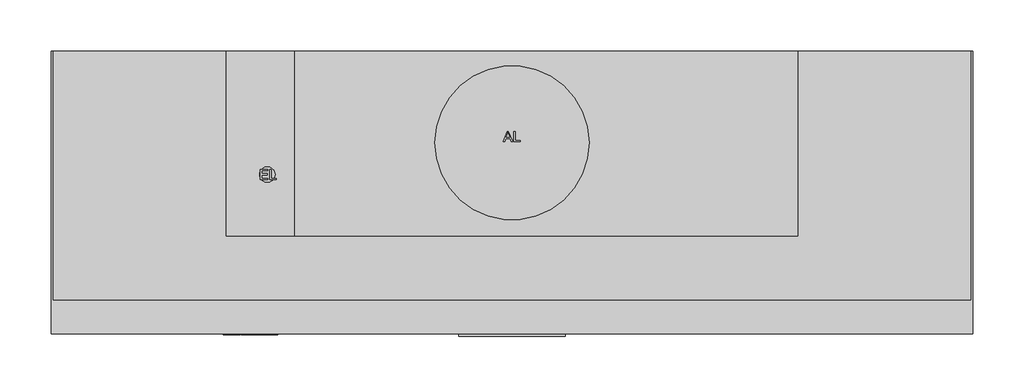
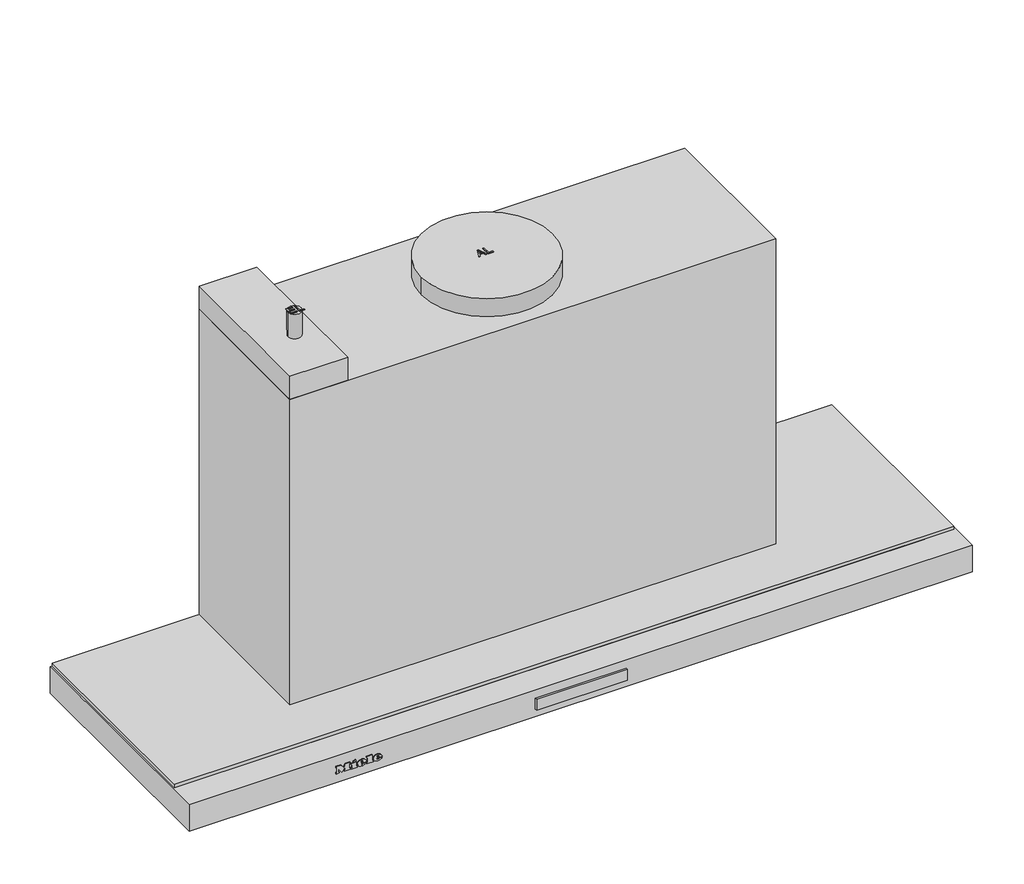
# Not in any storey: 1 proxy.
"""IFC4 building model written with IfcOpenShell, lengths in millimetres."""

import ifcopenshell
import ifcopenshell.guid

model = None  # the IFC model being written
_history = None  # IfcOwnerHistory: only IFC2X3 demands one
_inside = {}  # id of a spatial element -> (the spatial element, [elements in it])
_under = {}  # id of a project, library or spatial element -> (it, [spatial elements below it])
_declared = {}  # id of a project -> (the project, [libraries it declares])
_typed = {}  # id of a type object -> (the type object, [elements of that type])
_made_of = {}  # id of a material, layer set ... -> (it, [elements and type objects made of it])


def new_model(schema):
    """Start an empty IFC model of exactly this schema.

    Asked for "IFC4X3", IfcOpenShell would pick the latest addendum, in which some entities
    have other attributes; the version numbers below select the first issue.
    IFC2X3 requires an IfcOwnerHistory on every rooted entity: one is made here for all.
    """
    global model, _history
    if schema == "IFC4X3":
        model = ifcopenshell.file(schema_version=(4, 3, 0, 0))
    else:
        model = ifcopenshell.file(schema=schema)
    _inside.clear()
    _under.clear()
    _declared.clear()
    _typed.clear()
    _made_of.clear()
    _history = None
    if model.schema == "IFC2X3":
        org = make("IfcOrganization", Name="unknown")
        user = make(
            "IfcPersonAndOrganization",
            ThePerson=make("IfcPerson", FamilyName="unknown"),
            TheOrganization=org,
        )
        app = make(
            "IfcApplication",
            ApplicationDeveloper=org,
            Version="unknown",
            ApplicationFullName="unknown",
            ApplicationIdentifier="unknown",
        )
        _history = make(
            "IfcOwnerHistory",
            OwningUser=user,
            OwningApplication=app,
            ChangeAction="ADDED",
            CreationDate=0,
        )
    return model


def make(cls, **values):
    """One entity of the class cls with the attributes given. An attribute that is None is left unset."""
    return model.create_entity(
        cls, **{name: value for name, value in values.items() if value is not None}
    )


def rooted(cls, **values):
    """An entity with a GlobalId (a new one), such as an element, a storey or a relation."""
    return make(cls, GlobalId=ifcopenshell.guid.new(), OwnerHistory=_history, **values)


def si_unit(unit_type, name, prefix=None):
    """IfcSIUnit, for example si_unit("LENGTHUNIT", "METRE", prefix="MILLI")."""
    return make("IfcSIUnit", UnitType=unit_type, Prefix=prefix, Name=name)


def assignment(units):
    """IfcUnitAssignment: the units of a project."""
    return None if units is None else make("IfcUnitAssignment", Units=units)


def point(xyz):
    """IfcCartesianPoint."""
    return None if xyz is None else make("IfcCartesianPoint", Coordinates=xyz)


def direction(xyz):
    """IfcDirection."""
    return None if xyz is None else make("IfcDirection", DirectionRatios=xyz)


def frame(location, z_axis=None, x_axis=None):
    """IfcAxis2Placement3D, a coordinate frame: its origin and axes. An axis left out is left unset."""
    return make(
        "IfcAxis2Placement3D",
        Location=point(location),
        Axis=direction(z_axis),
        RefDirection=direction(x_axis),
    )


def frame_2d(location, x_axis=None):
    """IfcAxis2Placement2D, a coordinate frame in the plane: its origin and x axis."""
    return make(
        "IfcAxis2Placement2D", Location=point(location), RefDirection=direction(x_axis)
    )


def origin():
    """The frame at (0, 0, 0) with its axes left unset."""
    return frame((0.0, 0.0, 0.0))


def origin_with_axes():
    """The frame at (0, 0, 0) with the z axis (0, 0, 1) and the x axis (1, 0, 0) written out."""
    return frame((0.0, 0.0, 0.0), z_axis=(0.0, 0.0, 1.0), x_axis=(1.0, 0.0, 0.0))


def place(relative_to, where):
    """IfcLocalPlacement: puts the frame where relative to a parent placement (None: the world)."""
    return make(
        "IfcLocalPlacement", PlacementRelTo=relative_to, RelativePlacement=where
    )


def context(
    kind, dimensions, precision=None, world=None, true_north=None, identifier=None
):
    """IfcGeometricRepresentationContext, for example the 3D "Model" context."""
    return make(
        "IfcGeometricRepresentationContext",
        ContextIdentifier=identifier,
        ContextType=kind,
        CoordinateSpaceDimension=dimensions,
        Precision=precision,
        WorldCoordinateSystem=world,
        TrueNorth=true_north,
    )


def project(units=None, contexts=None):
    """IfcProject with its units and contexts."""
    return rooted(
        "IfcProject",
        Name="project",
        RepresentationContexts=contexts,
        UnitsInContext=assignment(units),
    )


def spatial(cls, under=None, at=None, **own):
    """A site, building, storey or space (cls), placed at a placement, below another one or the project."""
    s = rooted(cls, ObjectPlacement=at, **own)
    if under is not None:
        _under.setdefault(under.id(), (under, []))[1].append(s)
    return s


def polyline(points):
    """IfcPolyline through the points."""
    return make("IfcPolyline", Points=[point(p) for p in points])


def circle_curve(where, radius):
    """IfcCircle in the frame where."""
    return make("IfcCircle", Position=where, Radius=radius)


def ellipse_curve(where, semi_axis1, semi_axis2):
    """IfcEllipse in the frame where."""
    return make(
        "IfcEllipse", Position=where, SemiAxis1=semi_axis1, SemiAxis2=semi_axis2
    )


def trimmed(basis, trim1, trim2, sense, master):
    """IfcTrimmedCurve: the piece of a basis curve between two trims."""
    return make(
        "IfcTrimmedCurve",
        BasisCurve=basis,
        Trim1=trim1,
        Trim2=trim2,
        SenseAgreement=sense,
        MasterRepresentation=master,
    )


def segment(curve, same_sense, transition):
    """IfcCompositeCurveSegment."""
    return make(
        "IfcCompositeCurveSegment",
        Transition=transition,
        SameSense=same_sense,
        ParentCurve=curve,
    )


def composite_curve(segments, self_intersect=None):
    """IfcCompositeCurve: segments joined end to end."""
    return make("IfcCompositeCurve", Segments=segments, SelfIntersect=self_intersect)


def outline(outer, holes=None, kind="AREA"):
    """IfcArbitraryClosedProfileDef: a profile drawn as a closed curve; with holes, ...WithVoids."""
    if holes is None:
        return make("IfcArbitraryClosedProfileDef", ProfileType=kind, OuterCurve=outer)
    return make(
        "IfcArbitraryProfileDefWithVoids",
        ProfileType=kind,
        OuterCurve=outer,
        InnerCurves=holes,
    )


def extrude(swept, where, along, depth):
    """IfcExtrudedAreaSolid: the profile swept, set in the frame where, extruded along a direction by depth."""
    return make(
        "IfcExtrudedAreaSolid",
        SweptArea=swept,
        Position=where,
        ExtrudedDirection=direction(along),
        Depth=depth,
    )


def faces_of(points, faces, orient=None, outer=None):
    """IfcFace entities. A face is a list of loops; a loop is a list of indices into points, from 0.

    orient and outer hold one flag for each loop. By default every Orientation is true, the
    first loop of a face is its IfcFaceOuterBound and the others are IfcFaceBound.
    """
    made = []
    for i, loops in enumerate(faces):
        bounds = []
        for j, loop in enumerate(loops):
            is_outer = j == 0 if outer is None else outer[i][j]
            bounds.append(
                make(
                    "IfcFaceOuterBound" if is_outer else "IfcFaceBound",
                    Bound=make("IfcPolyLoop", Polygon=[points[k] for k in loop]),
                    Orientation=True if orient is None else orient[i][j],
                )
            )
        made.append(make("IfcFace", Bounds=bounds))
    return made


def faceted_brep(points, faces, orient=None, outer=None, voids=None):
    """IfcFacetedBrep: a solid bounded by flat faces; with voids (closed shells), ...WithVoids."""
    shared = [point(p) for p in points]
    hull = make("IfcClosedShell", CfsFaces=faces_of(shared, faces, orient, outer))
    if voids is None:
        return make("IfcFacetedBrep", Outer=hull)
    return make(
        "IfcFacetedBrepWithVoids",
        Outer=hull,
        Voids=[
            make(cls, CfsFaces=faces_of(shared, fs, o, b)) for cls, fs, o, b in voids
        ],
    )


def shape(context_of_items, identifier, shape_type, items):
    """IfcShapeRepresentation: the items that make up one representation, for example the "Body"."""
    return make(
        "IfcShapeRepresentation",
        ContextOfItems=context_of_items,
        RepresentationIdentifier=identifier,
        RepresentationType=shape_type,
        Items=items,
    )


def source(mapping_origin, context_of_items, identifier, shape_type, items):
    """IfcRepresentationMap: a shape defined once, which mapped items show again and again."""
    return make(
        "IfcRepresentationMap",
        MappingOrigin=mapping_origin,
        MappedRepresentation=shape(context_of_items, identifier, shape_type, items),
    )


def transform(
    local_origin,
    x_axis=None,
    y_axis=None,
    z_axis=None,
    scale=None,
    scale2=None,
    scale3=None,
    uniform=True,
):
    """IfcCartesianTransformationOperator3D, or its non-uniform kind. x_axis, y_axis, z_axis: its Axis1, 2, 3."""
    if uniform:
        return make(
            "IfcCartesianTransformationOperator3D",
            Axis1=direction(x_axis),
            Axis2=direction(y_axis),
            LocalOrigin=point(local_origin),
            Scale=scale,
            Axis3=direction(z_axis),
        )
    return make(
        "IfcCartesianTransformationOperator3DnonUniform",
        Axis1=direction(x_axis),
        Axis2=direction(y_axis),
        LocalOrigin=point(local_origin),
        Scale=scale,
        Axis3=direction(z_axis),
        Scale2=scale2,
        Scale3=scale3,
    )


def mapped(mapping_source, mapping_target):
    """IfcMappedItem: shows the shape of a source again, moved by a transform."""
    return make(
        "IfcMappedItem", MappingSource=mapping_source, MappingTarget=mapping_target
    )


def made_of(thing, what):
    """Note that an element or type object is made of a material, layer set ...; save() writes the relation."""
    if what is not None:
        _made_of.setdefault(what.id(), (what, []))[1].append(thing)
    return thing


def element(
    cls,
    number,
    at=None,
    inside=None,
    cuts=None,
    type_object=None,
    material=None,
    context=None,
    identifier="Body",
    shape_type=None,
    held_by="IfcProductDefinitionShape",
    body=None,
    shapes=None,
    **own,
):
    """One element of the class cls, such as IfcWall. Its Tag is "e" and its number.

    at: its placement. inside: the storey or other place that contains it. cuts: it is an
    opening in that element (IfcRelVoidsElement). A single representation is given by context,
    identifier, shape_type and body (its items); several are given by shapes. held_by: the class
    of the entity that holds the representations. save() writes the other relations.
    """
    e = rooted(cls, Tag="e%d" % number, ObjectPlacement=at, **own)
    if body is not None:
        shapes = [shape(context, identifier, shape_type, body)]
    if shapes is not None:
        e.Representation = make(held_by, Representations=shapes)
    if inside is not None:
        _inside.setdefault(inside.id(), (inside, []))[1].append(e)
    if cuts is not None:
        rooted(
            "IfcRelVoidsElement", RelatingBuildingElement=cuts, RelatedOpeningElement=e
        )
    if type_object is not None:
        _typed.setdefault(type_object.id(), (type_object, []))[1].append(e)
    return made_of(e, material)


def aggregate(whole, parts):
    """IfcRelAggregates: a whole, such as a stair, and the parts it consists of."""
    return rooted("IfcRelAggregates", RelatingObject=whole, RelatedObjects=parts)


def save(model, path):
    """Write the relations noted so far, then the file.

    IfcRelAggregates (storeys below a building ...), IfcRelContainedInSpatialStructure (elements
    in a storey), IfcRelDefinesByType, IfcRelAssociatesMaterial and IfcRelDeclares: one each for
    every whole, place, type object, material and project.
    """
    for whole, parts in _under.values():
        aggregate(whole, parts)
    for where, things in _inside.values():
        rooted(
            "IfcRelContainedInSpatialStructure",
            RelatedElements=things,
            RelatingStructure=where,
        )
    for kind, things in _typed.values():
        rooted("IfcRelDefinesByType", RelatedObjects=things, RelatingType=kind)
    for what, things in _made_of.values():
        rooted("IfcRelAssociatesMaterial", RelatedObjects=things, RelatingMaterial=what)
    for by, libraries in _declared.values():
        rooted("IfcRelDeclares", RelatingContext=by, RelatedDefinitions=libraries)
    model.write(path)


def plane_surface(at):
    """IfcPlane: the flat surface through the origin of the frame at, square to its z axis."""
    return make("IfcPlane", Position=at)


def cylinder_surface(at, radius):
    """IfcCylindricalSurface: all points at the distance radius from the z axis of the frame at."""
    return make("IfcCylindricalSurface", Position=at, Radius=radius)


def revolved_surface(curve, axis_point, axis_direction):
    """IfcSurfaceOfRevolution: the curve turned about the line through axis_point along axis_direction."""
    return make(
        "IfcSurfaceOfRevolution",
        SweptCurve=make("IfcArbitraryOpenProfileDef", ProfileType="CURVE", Curve=curve),
        AxisPosition=make("IfcAxis1Placement", Location=point(axis_point), Axis=direction(axis_direction)),
    )


def extruded_surface(curve, direction_of_extrusion, depth):
    """IfcSurfaceOfLinearExtrusion: the curve pushed along a direction by depth."""
    return make(
        "IfcSurfaceOfLinearExtrusion",
        SweptCurve=make("IfcArbitraryOpenProfileDef", ProfileType="CURVE", Curve=curve),
        ExtrudedDirection=direction(direction_of_extrusion),
        Depth=depth,
    )


def advanced_brep(points, edges, surfaces, faces):
    """IfcAdvancedBrep: a solid bounded by faces that lie on surfaces and meet in shared edges.

    An edge is (start, end): straight between two places in points (the first is 0);
    or (start, end, curve); or (start, end, curve, False) where it runs against its curve.
    A face is (place in surfaces, loops), or (place, loops, False) where it looks against
    its surface's normal. A loop lists edges by number (the first is 1), with a minus sign
    where the edge is run from its end to its start. The first loop is the outer one.
    """
    corners = [point(p) for p in points]
    vertices = [make("IfcVertexPoint", VertexGeometry=c) for c in corners]
    made = []
    for start, end, *more in edges:
        made.append(
            make(
                "IfcEdgeCurve",
                EdgeStart=vertices[start],
                EdgeEnd=vertices[end],
                EdgeGeometry=more[0] if more else make("IfcPolyline", Points=[corners[start], corners[end]]),
                SameSense=more[1] if len(more) > 1 else True,
            )
        )
    hull = []
    for where, loops, *sense in faces:
        bounds = []
        for j, loop in enumerate(loops):
            ring = [make("IfcOrientedEdge", EdgeElement=made[abs(k) - 1], Orientation=k > 0) for k in loop]
            bounds.append(
                make(
                    "IfcFaceOuterBound" if j == 0 else "IfcFaceBound",
                    Bound=make("IfcEdgeLoop", EdgeList=ring),
                    Orientation=True,
                )
            )
        hull.append(make("IfcAdvancedFace", Bounds=bounds, FaceSurface=surfaces[where], SameSense=sense[0] if sense else True))
    return make("IfcAdvancedBrep", Outer=make("IfcClosedShell", CfsFaces=hull))


def specialty_equipment_f2d649a9(model_context):
    return source(origin(), model_context, "Body", "SolidModel", [
        extrude(outline(polyline([(52.0, -275.0), (52.0, -277.3978707), (-52.0, -277.3978707), (-52.0, -275.0), (52.0, -275.0)])), frame((0.0, 0.0, -23.0389651), z_axis=(0.0, 0.0, 1.0), x_axis=(1.0, 0.0, 0.0)), (0.0, 0.0, 1.0), 13.3389155),
        advanced_brep(
        [(-233.4590019, -276.0, -18.7681017), (-233.4590019, -276.0, -17.8894017), (-227.6387019, -276.0, -17.8894017), (-237.7655019, -276.0, -17.8894017), (-235.3730019, -276.0, -20.8300017), (-227.7866019, -276.0, -18.7681017), (-230.4140019, -276.0, -18.7681017), (-232.4846019, -276.0, -19.7425017), (-233.4590019, -276.0, -16.7758017), (-233.4590019, -276.0, -15.8275017), (-231.9713019, -276.0, -15.8275017), (-231.9713019, -276.0, -16.7758017), (-233.4590019, -275.0, -18.7681017), (-232.4846019, -275.0, -19.7425017), (-230.4140019, -275.0, -18.7681017), (-227.7866019, -275.0, -18.7681017), (-235.3730019, -275.0, -20.8300017), (-237.7655019, -275.0, -17.8894017), (-227.6387019, -275.0, -17.8894017), (-233.4590019, -275.0, -17.8894017), (-233.4590019, -275.0, -16.7758017), (-231.9713019, -275.0, -16.7758017), (-231.9713019, -275.0, -15.8275017), (-233.4590019, -275.0, -15.8275017)],
        [
            (0, 1),
            (1, 2),
            (2, 3, ellipse_curve(frame((-232.7021019, -276.0, -17.8894017), z_axis=(0.0, -1.0, 0.0), x_axis=(-1.0, 0.0, 0.0)), 5.0634, 4.1847)),
            (3, 4, circle_curve(frame((-234.3985544, -276.0, -17.5936017), z_axis=(0.0, -1.0, 0.0), x_axis=(0.0, 0.0, -1.0)), 3.3799161)),
            (4, 5, circle_curve(frame((-232.8034638, -276.0, -15.2968017), z_axis=(0.0, -1.0, 0.0), x_axis=(0.0, 0.0, -1.0)), 6.1007236)),
            (5, 6),
            (6, 7, circle_curve(frame((-232.0593254, -276.0, -17.9590017), z_axis=(0.0, 1.0, 0.0), x_axis=(0.0, 0.0, -1.0)), 1.8335027)),
            (7, 0, circle_curve(frame((-232.4846019, -276.0, -18.7681017), z_axis=(0.0, 1.0, 0.0), x_axis=(0.0, 0.0, -1.0)), 0.9744)),
            (8, 9),
            (9, 10, circle_curve(frame((-232.7151519, -276.0, -15.8275017), z_axis=(0.0, 1.0, 0.0), x_axis=(0.0, 0.0, -1.0)), 0.74385)),
            (10, 11),
            (11, 8),
            (12, 13, circle_curve(frame((-232.4846019, -275.0, -18.7681017), z_axis=(0.0, -1.0, 0.0), x_axis=(0.0, 0.0, -1.0)), 0.9744)),
            (13, 14, circle_curve(frame((-232.0593254, -275.0, -17.9590017), z_axis=(0.0, -1.0, 0.0), x_axis=(0.0, 0.0, -1.0)), 1.8335027)),
            (14, 15),
            (15, 16, circle_curve(frame((-232.8034638, -275.0, -15.2968017), z_axis=(0.0, 1.0, 0.0), x_axis=(0.0, 0.0, -1.0)), 6.1007236)),
            (16, 17, circle_curve(frame((-234.3985544, -275.0, -17.5936017), z_axis=(0.0, 1.0, 0.0), x_axis=(0.0, 0.0, -1.0)), 3.3799161)),
            (17, 18, ellipse_curve(frame((-232.7021019, -275.0, -17.8894017), z_axis=(0.0, 1.0, 0.0), x_axis=(-1.0, 0.0, 0.0)), 5.0634, 4.1847)),
            (18, 19),
            (19, 12),
            (20, 21),
            (21, 22),
            (22, 23, circle_curve(frame((-232.7151519, -275.0, -15.8275017), z_axis=(0.0, -1.0, 0.0), x_axis=(0.0, 0.0, -1.0)), 0.74385)),
            (23, 20),
            (0, 12),
            (19, 1),
            (18, 2),
            (5, 15),
            (14, 6),
            (17, 3),
            (13, 7),
            (16, 4),
            (8, 20),
            (23, 9),
            (22, 10),
            (21, 11),
        ],
        [
            plane_surface(frame((-233.4590019, -276.0, -17.8894017), z_axis=(0.0, -1.0, 0.0), x_axis=(0.0, 0.0, 1.0))),
            plane_surface(frame((-233.4590019, -275.0, -17.8894017), z_axis=(0.0, 1.0, 0.0), x_axis=(0.0, 0.0, -1.0))),
            plane_surface(frame((-233.4590019, -276.0, -18.7681017), z_axis=(1.0, 0.0, 0.0), x_axis=(0.0, 1.0, 0.0))),
            plane_surface(frame((-233.4590019, -276.0, -17.8894017), z_axis=(0.0, 0.0, -1.0), x_axis=(0.0, 1.0, 0.0))),
            plane_surface(frame((-227.7866019, -276.0, -18.7681017), z_axis=(0.0, 0.0, 1.0), x_axis=(0.0, 1.0, 0.0))),
            extruded_surface(trimmed(ellipse_curve(frame((-232.7021019, -274.0, -17.8894017), z_axis=(0.0, -1.0, 0.0), x_axis=(-1.0, 0.0, 0.0)), 5.0634, 4.1847), [point((-227.6387019, -274.0, -17.8894017))], [point((-237.7655019, -274.0, -17.8894017))], True, "CARTESIAN"), (0.0, -1.0, 0.0), 1.0),
            revolved_surface(polyline([(-232.0593254, -275.0, -19.792504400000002), (-232.0593254, -276.0, -19.792504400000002)]), (-232.0593254, -275.0, -17.9590017), (0.0, 1.0, 0.0)),
            revolved_surface(polyline([(-232.4846019, -275.0, -19.7425017), (-232.4846019, -276.0, -19.7425017)]), (-232.4846019, -275.0, -18.7681017), (0.0, 1.0, 0.0)),
            cylinder_surface(frame((-234.3985544, -275.0, -17.5936017), z_axis=(0.0, -1.0, 0.0), x_axis=(0.0, 0.0, -1.0)), 3.3799161),
            cylinder_surface(frame((-232.8034638, -275.0, -15.2968017), z_axis=(0.0, -1.0, 0.0), x_axis=(0.0, 0.0, -1.0)), 6.1007236),
            plane_surface(frame((-233.4590019, -276.0, -16.7758017), z_axis=(1.0, 0.0, 0.0), x_axis=(0.0, 1.0, 0.0))),
            revolved_surface(polyline([(-232.7151519, -275.0, -16.571351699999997), (-232.7151519, -276.0, -16.571351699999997)]), (-232.7151519, -275.0, -15.8275017), (0.0, 1.0, 0.0)),
            plane_surface(frame((-231.9713019, -276.0, -15.8275017), z_axis=(-1.0, 0.0, 0.0), x_axis=(0.0, 1.0, 0.0))),
            plane_surface(frame((-231.9713019, -276.0, -16.7758017), z_axis=(0.0, 0.0, 1.0), x_axis=(0.0, 1.0, 0.0))),
        ],
        [
            (0, [[1, 2, 3, 4, 5, 6, 7, 8], [9, 10, 11, 12]]),
            (1, [[13, 14, 15, 16, 17, 18, 19, 20], [21, 22, 23, 24]]),
            (2, [[-1, 25, -20, 26]]),
            (3, [[-2, -26, -19, 27]]),
            (4, [[-6, 28, -15, 29]]),
            (5, [[-3, -27, -18, 30]]),
            (6, [[-7, -29, -14, 31]]),
            (7, [[-8, -31, -13, -25]]),
            (8, [[-4, -30, -17, 32]]),
            (9, [[-5, -32, -16, -28]]),
            (10, [[-9, 33, -24, 34]]),
            (11, [[-10, -34, -23, 35]]),
            (12, [[-11, -35, -22, 36]]),
            (13, [[-12, -36, -21, -33]]),
        ],
    ),
        advanced_brep(
        [(-251.6159019, -276.0, -18.7681017), (-251.6159019, -276.0, -17.8894017), (-245.7956019, -276.0, -17.8894017), (-255.9224019, -276.0, -17.8894017), (-253.5299019, -276.0, -20.8300017), (-245.9435019, -276.0, -18.7681017), (-248.5709019, -276.0, -18.7681017), (-250.6415019, -276.0, -19.7425017), (-251.6159019, -276.0, -16.7758017), (-251.6159019, -276.0, -15.8275017), (-250.1282019, -276.0, -15.8275017), (-250.1282019, -276.0, -16.7758017), (-251.6159019, -275.0, -18.7681017), (-250.6415019, -275.0, -19.7425017), (-248.5709019, -275.0, -18.7681017), (-245.9435019, -275.0, -18.7681017), (-253.5299019, -275.0, -20.8300017), (-255.9224019, -275.0, -17.8894017), (-245.7956019, -275.0, -17.8894017), (-251.6159019, -275.0, -17.8894017), (-251.6159019, -275.0, -16.7758017), (-250.1282019, -275.0, -16.7758017), (-250.1282019, -275.0, -15.8275017), (-251.6159019, -275.0, -15.8275017)],
        [
            (0, 1),
            (1, 2),
            (2, 3, ellipse_curve(frame((-250.8590019, -276.0, -17.8894017), z_axis=(0.0, -1.0, 0.0), x_axis=(-1.0, 0.0, 0.0)), 5.0634, 4.1847)),
            (3, 4, circle_curve(frame((-252.5554544, -276.0, -17.5936017), z_axis=(0.0, -1.0, 0.0), x_axis=(0.0, 0.0, -1.0)), 3.3799161)),
            (4, 5, circle_curve(frame((-250.9603638, -276.0, -15.2968017), z_axis=(0.0, -1.0, 0.0), x_axis=(0.0, 0.0, -1.0)), 6.1007236)),
            (5, 6),
            (6, 7, circle_curve(frame((-250.2162254, -276.0, -17.9590017), z_axis=(0.0, 1.0, 0.0), x_axis=(0.0, 0.0, -1.0)), 1.8335027)),
            (7, 0, circle_curve(frame((-250.6415019, -276.0, -18.7681017), z_axis=(0.0, 1.0, 0.0), x_axis=(0.0, 0.0, -1.0)), 0.9744)),
            (8, 9),
            (9, 10, circle_curve(frame((-250.8720519, -276.0, -15.8275017), z_axis=(0.0, 1.0, 0.0), x_axis=(0.0, 0.0, -1.0)), 0.74385)),
            (10, 11),
            (11, 8),
            (12, 13, circle_curve(frame((-250.6415019, -275.0, -18.7681017), z_axis=(0.0, -1.0, 0.0), x_axis=(0.0, 0.0, -1.0)), 0.9744)),
            (13, 14, circle_curve(frame((-250.2162254, -275.0, -17.9590017), z_axis=(0.0, -1.0, 0.0), x_axis=(0.0, 0.0, -1.0)), 1.8335027)),
            (14, 15),
            (15, 16, circle_curve(frame((-250.9603638, -275.0, -15.2968017), z_axis=(0.0, 1.0, 0.0), x_axis=(0.0, 0.0, -1.0)), 6.1007236)),
            (16, 17, circle_curve(frame((-252.5554544, -275.0, -17.5936017), z_axis=(0.0, 1.0, 0.0), x_axis=(0.0, 0.0, -1.0)), 3.3799161)),
            (17, 18, ellipse_curve(frame((-250.8590019, -275.0, -17.8894017), z_axis=(0.0, 1.0, 0.0), x_axis=(-1.0, 0.0, 0.0)), 5.0634, 4.1847)),
            (18, 19),
            (19, 12),
            (20, 21),
            (21, 22),
            (22, 23, circle_curve(frame((-250.8720519, -275.0, -15.8275017), z_axis=(0.0, -1.0, 0.0), x_axis=(0.0, 0.0, -1.0)), 0.74385)),
            (23, 20),
            (0, 12),
            (19, 1),
            (18, 2),
            (5, 15),
            (14, 6),
            (17, 3),
            (13, 7),
            (16, 4),
            (8, 20),
            (23, 9),
            (22, 10),
            (21, 11),
        ],
        [
            plane_surface(frame((-251.6159019, -276.0, -17.8894017), z_axis=(0.0, -1.0, 0.0), x_axis=(0.0, 0.0, 1.0))),
            plane_surface(frame((-251.6159019, -275.0, -17.8894017), z_axis=(0.0, 1.0, 0.0), x_axis=(0.0, 0.0, -1.0))),
            plane_surface(frame((-251.6159019, -276.0, -18.7681017), z_axis=(1.0, 0.0, 0.0), x_axis=(0.0, 1.0, 0.0))),
            plane_surface(frame((-251.6159019, -276.0, -17.8894017), z_axis=(0.0, 0.0, -1.0), x_axis=(0.0, 1.0, 0.0))),
            plane_surface(frame((-245.9435019, -276.0, -18.7681017), z_axis=(0.0, 0.0, 1.0), x_axis=(0.0, 1.0, 0.0))),
            extruded_surface(trimmed(ellipse_curve(frame((-250.8590019, -274.0, -17.8894017), z_axis=(0.0, -1.0, 0.0), x_axis=(-1.0, 0.0, 0.0)), 5.0634, 4.1847), [point((-245.7956019, -274.0, -17.8894017))], [point((-255.9224019, -274.0, -17.8894017))], True, "CARTESIAN"), (0.0, -1.0, 0.0), 1.0),
            revolved_surface(polyline([(-250.2162254, -275.0, -19.792504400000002), (-250.2162254, -276.0, -19.792504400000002)]), (-250.2162254, -275.0, -17.9590017), (0.0, 1.0, 0.0)),
            revolved_surface(polyline([(-250.6415019, -275.0, -19.7425017), (-250.6415019, -276.0, -19.7425017)]), (-250.6415019, -275.0, -18.7681017), (0.0, 1.0, 0.0)),
            cylinder_surface(frame((-252.5554544, -275.0, -17.5936017), z_axis=(0.0, -1.0, 0.0), x_axis=(0.0, 0.0, -1.0)), 3.3799161),
            cylinder_surface(frame((-250.9603638, -275.0, -15.2968017), z_axis=(0.0, -1.0, 0.0), x_axis=(0.0, 0.0, -1.0)), 6.1007236),
            plane_surface(frame((-251.6159019, -276.0, -16.7758017), z_axis=(1.0, 0.0, 0.0), x_axis=(0.0, 1.0, 0.0))),
            revolved_surface(polyline([(-250.8720519, -275.0, -16.571351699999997), (-250.8720519, -276.0, -16.571351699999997)]), (-250.8720519, -275.0, -15.8275017), (0.0, 1.0, 0.0)),
            plane_surface(frame((-250.1282019, -276.0, -15.8275017), z_axis=(-1.0, 0.0, 0.0), x_axis=(0.0, 1.0, 0.0))),
            plane_surface(frame((-250.1282019, -276.0, -16.7758017), z_axis=(0.0, 0.0, 1.0), x_axis=(0.0, 1.0, 0.0))),
        ],
        [
            (0, [[1, 2, 3, 4, 5, 6, 7, 8], [9, 10, 11, 12]]),
            (1, [[13, 14, 15, 16, 17, 18, 19, 20], [21, 22, 23, 24]]),
            (2, [[-1, 25, -20, 26]]),
            (3, [[-2, -26, -19, 27]]),
            (4, [[-6, 28, -15, 29]]),
            (5, [[-3, -27, -18, 30]]),
            (6, [[-7, -29, -14, 31]]),
            (7, [[-8, -31, -13, -25]]),
            (8, [[-4, -30, -17, 32]]),
            (9, [[-5, -32, -16, -28]]),
            (10, [[-9, 33, -24, 34]]),
            (11, [[-10, -34, -23, 35]]),
            (12, [[-11, -35, -22, 36]]),
            (13, [[-12, -36, -21, -33]]),
        ],
    ),
        extrude(outline(polyline([(-12.6433017, -261.1250019), (-14.0527017, -260.4638019), (-12.6781017, -257.5145019), (-11.2687017, -258.1670019), (-12.6433017, -261.1250019)])), frame((0.0, -276.0, 0.0), z_axis=(0.0, 1.0, 0.0), x_axis=(0.0, 0.0, 1.0)), (0.0, 0.0, 1.0), 1.0),
        extrude(outline(polyline([(-14.2441017, -263.2739019), (-15.8014017, -263.2739019), (-15.8014017, -262.2386019), (-19.3684017, -262.2386019), (-19.3684017, -263.2739019), (-20.8300017, -263.2739019), (-20.8300017, -256.4096019), (-19.3684017, -256.4096019), (-19.3684017, -257.4188019), (-14.2441017, -257.4188019), (-14.2441017, -263.2739019)])), frame((0.0, -276.0, 0.0), z_axis=(0.0, 1.0, 0.0), x_axis=(0.0, 0.0, 1.0)), (0.0, 0.0, 1.0), 1.0),
        extrude(outline(polyline([(-13.5481017, -245.3084019), (-13.5481017, -244.2644019), (-19.3684017, -244.2644019), (-19.3684017, -245.3084019), (-20.8300017, -245.3084019), (-20.8300017, -238.2527019), (-19.3684017, -238.2527019), (-19.3684017, -239.3228019), (-12.1300017, -239.3228019), (-12.1300017, -245.3084019), (-13.5481017, -245.3084019)])), frame((0.0, -276.0, 0.0), z_axis=(0.0, 1.0, 0.0), x_axis=(0.0, 0.0, 1.0)), (0.0, 0.0, 1.0), 1.0),
        extrude(outline(polyline([(-13.5481017, -280.6130019), (-13.5481017, -279.5603019), (-19.3684017, -279.5603019), (-19.3684017, -280.6130019), (-20.8300017, -280.6130019), (-20.8300017, -276.7850019), (-19.3684017, -276.7850019), (-19.3684017, -277.8290019), (-15.6719769, -277.8290019), (-20.8300017, -273.9401019), (-15.5772794, -270.0338019), (-19.3684017, -270.0338019), (-19.3684017, -271.1039019), (-20.8300017, -271.1039019), (-20.8300017, -264.1613019), (-19.3684017, -264.1613019), (-19.3684017, -265.2662019), (-13.5481017, -265.2662019), (-13.5481017, -264.1613019), (-12.1300017, -264.1613019), (-12.1300017, -269.4596019), (-15.3925017, -272.0000019), (-12.1300017, -274.5491019), (-12.1300017, -280.6130019), (-13.5481017, -280.6130019)])), frame((0.0, -276.0, 0.0), z_axis=(0.0, 1.0, 0.0), x_axis=(0.0, 0.0, 1.0)), (0.0, 0.0, 1.0), 1.0),
        extrude(outline(polyline([(278.0, -180.0), (-278.0, -180.0), (-278.0, 0.0), (278.0, 0.0), (278.0, -180.0)])), frame((0.0, 0.0, 4.0), z_axis=(0.0, 0.0, 1.0), x_axis=(1.0, 0.0, 0.0)), (0.0, 0.0, 1.0), 369.0),
        extrude(outline(composite_curve([segment(trimmed(circle_curve(frame_2d((0.0, -89.0)), 75.0), [point((-75.0, -89.0))], [point((75.0, -89.0))], False, "CARTESIAN"), True, "CONTINUOUS"), segment(trimmed(circle_curve(frame_2d((0.0, -89.0)), 75.0), [point((75.0, -89.0))], [point((-75.0, -89.0))], False, "CARTESIAN"), True, "CONTINUOUS")], self_intersect=False)), frame((0.0, 0.0, 373.0), z_axis=(0.0, 0.0, 1.0), x_axis=(1.0, 0.0, 0.0)), (0.0, 0.0, 1.0), 22.0),
        extrude(outline(polyline([(-278.0, -180.0), (-278.0, 0.0), (-212.0, 0.0), (-212.0, -180.0), (-278.0, -180.0)])), frame((0.0, 0.0, 373.0), z_axis=(0.0, 0.0, 1.0), x_axis=(1.0, 0.0, 0.0)), (0.0, 0.0, 1.0), 28.0),
        extrude(outline(polyline([(-8.547125, -87.975609), (-4.5372113, -77.929978), (-3.4679009, -77.929978), (0.5420128, -87.975609), (-0.7848149, -87.975609), (-1.9350593, -84.8363493), (-6.0725055, -84.8363493), (-7.2202973, -87.975609), (-8.547125, -87.975609)]), holes=[polyline([(-5.6114267, -83.5806455), (-2.3936855, -83.5806455), (-3.2986752, -81.110931), (-4.0025561, -79.1856819), (-4.6279555, -80.8951069), (-5.6114267, -83.5806455)])]), frame((0.0, 0.0, 395.0), z_axis=(0.0, 0.0, 1.0), x_axis=(1.0, 0.0, 0.0)), (0.0, 0.0, 1.0), 1.0),
        extrude(outline(polyline([(1.8835558, -87.975609), (1.8835558, -77.929978), (3.1392597, -77.929978), (3.1392597, -86.7199052), (8.1620752, -86.7199052), (8.1620752, -87.975609), (1.8835558, -87.975609)])), frame((0.0, 0.0, 395.0), z_axis=(0.0, 0.0, 1.0), x_axis=(1.0, 0.0, 0.0)), (0.0, 0.0, 1.0), 1.0),
        extrude(outline(polyline([(446.0, 0.0), (446.0, -242.0), (-446.0, -242.0), (-446.0, 0.0), (446.0, 0.0)])), origin_with_axes(), (0.0, 0.0, 1.0), 4.0),
        extrude(outline(polyline([(120.0, -19.25), (120.0, -31.75), (-120.0, -31.75), (-120.0, -19.25), (120.0, -19.25)])), frame((0.0, 0.0, -23.0), z_axis=(0.0, 0.0, 1.0), x_axis=(1.0, 0.0, 0.0)), (0.0, 0.0, 1.0), 1.785426),
        extrude(outline(polyline([(331.0813184, -268.0), (331.0813184, -246.0), (399.0, -246.0), (399.0, -268.0), (331.0813184, -268.0)])), frame((0.0, 0.0, -33.3019181), z_axis=(0.0, 0.0, 1.0), x_axis=(1.0, 0.0, 0.0)), (0.0, 0.0, 1.0), 1.3019181),
        extrude(outline(polyline([(-399.0, -268.0), (-399.0, -246.0), (-331.0, -246.0), (-331.0, -268.0), (-399.0, -268.0)])), frame((0.0, 0.0, -33.3019181), z_axis=(0.0, 0.0, 1.0), x_axis=(1.0, 0.0, 0.0)), (0.0, 0.0, 1.0), 1.3019181),
        extrude(outline(composite_curve([segment(trimmed(circle_curve(frame_2d((-238.0, -120.0)), 7.5), [point((-230.5, -120.0))], [point((-245.5, -120.0))], False, "CARTESIAN"), True, "CONTINUOUS"), segment(trimmed(circle_curve(frame_2d((-238.0, -120.0)), 7.5), [point((-245.5, -120.0))], [point((-230.5, -120.0))], False, "CARTESIAN"), True, "CONTINUOUS")], self_intersect=False)), frame((0.0, 0.0, 401.0), z_axis=(0.0, 0.0, 1.0), x_axis=(1.0, 0.0, 0.0)), (0.0, 0.0, 1.0), 30.0),
        extrude(outline(polyline([(-235.640443, -124.9184735), (-235.640443, -114.8728425), (-234.3847391, -114.8728425), (-234.3847391, -123.6627696), (-229.3619236, -123.6627696), (-229.3619236, -124.9184735), (-235.640443, -124.9184735)])), frame((0.0, 0.0, 431.0), z_axis=(0.0, 0.0, 1.0), x_axis=(1.0, 0.0, 0.0)), (0.0, 0.0, 1.0), 1.0),
        extrude(outline(polyline([(-244.9012591, -124.9184735), (-244.9012591, -114.8728425), (-237.6809618, -114.8728425), (-237.6809618, -116.1285464), (-243.6455552, -116.1285464), (-243.6455552, -119.1108431), (-237.9948878, -119.1108431), (-237.9948878, -120.366547), (-243.6455552, -120.366547), (-243.6455552, -123.6627696), (-237.5239988, -123.6627696), (-237.5239988, -124.9184735), (-244.9012591, -124.9184735)])), frame((0.0, 0.0, 431.0), z_axis=(0.0, 0.0, 1.0), x_axis=(1.0, 0.0, 0.0)), (0.0, 0.0, 1.0), 1.0),
        extrude(outline(polyline([(-448.0, 0.0), (-413.0, 0.0), (-413.0, -242.0), (413.0, -242.0), (413.0, 0.0), (448.0, 0.0), (448.0, -275.0), (-448.0, -275.0), (-448.0, 0.0)])), frame((0.0, 0.0, -32.0), z_axis=(0.0, 0.0, 1.0), x_axis=(1.0, 0.0, 0.0)), (0.0, 0.0, 1.0), 32.0),
        faceted_brep([(-126.0, -39.0, -24.0), (-126.0, -39.0, 0.0), (126.0, -39.0, 0.0), (126.0, -39.0, -24.0), (-126.0, -12.0, -24.0), (-126.0, -12.0, 0.0), (126.0, -12.0, -24.0), (126.0, -12.0, 0.0), (-413.0, -242.0, 0.0), (-413.0, 0.0, 0.0), (-413.0, 0.0, -24.0), (-413.0, -52.0, -24.0), (-413.0, -52.0, -25.0), (-413.0, -242.0, -25.0), (413.0, -52.0, -25.0), (413.0, -242.0, -25.0), (413.0, -52.0, -24.0), (413.0, 0.0, -24.0), (413.0, 0.0, 0.0), (413.0, -242.0, 0.0)], [[[0, 1, 2, 3]], [[4, 5, 1, 0]], [[6, 7, 5, 4]], [[8, 9, 10, 11, 12, 13]], [[13, 12, 14, 15]], [[16, 11, 10, 17], [6, 4, 0, 3]], [[11, 16, 14, 12]], [[18, 9, 8, 19], [5, 7, 2, 1]], [[9, 18, 17, 10]], [[19, 8, 13, 15]], [[18, 19, 15, 14, 16, 17]], [[7, 6, 3, 2]]]),
        extrude(outline(polyline([(126.0, -12.0), (126.0, -39.0), (-126.0, -39.0), (-126.0, -12.0), (126.0, -12.0)]), holes=[polyline([(120.0, -19.25), (-120.0, -19.25), (-120.0, -31.75), (120.0, -31.75), (120.0, -19.25)])]), frame((0.0, 0.0, -21.214574), z_axis=(0.0, 0.0, 1.0), x_axis=(1.0, 0.0, 0.0)), (0.0, 0.0, 1.0), 21.214574),
    ])


model = new_model("IFC4")

# Units and contexts
model_context = context("Model", 3, world=origin())
ifc_project = project(units=[si_unit("LENGTHUNIT", "METRE", prefix="MILLI")], contexts=[model_context])

# Site, building
site = spatial("IfcSite", under=ifc_project)
building = spatial("IfcBuilding", under=site)

# Proxy
placement = place(None, origin())
specialty_equipment_shape = specialty_equipment_f2d649a9(model_context)
element("IfcBuildingElementProxy", 1, Name="12011230_IB_DAS2920_EDST : 28S2920S_IB_12011230_DAS2920_EDST", ObjectType="12011230_IB_DAS2920_EDST : 28S2920S_IB_12011230_DAS2920_EDST", at=placement, inside=building, context=model_context, shape_type="MappedRepresentation", body=[
    mapped(specialty_equipment_shape, transform((0.0, 0.0, 0.0), x_axis=(1.0, 0.0, 0.0), y_axis=(0.0, 1.0, 0.0), z_axis=(0.0, 0.0, 1.0))),
])

save(model, "model.ifc")
